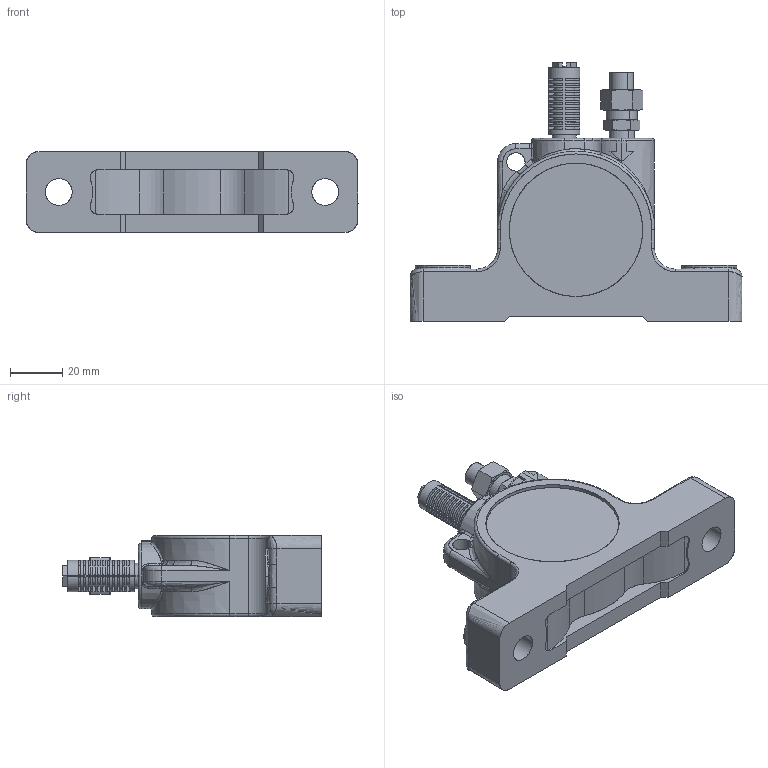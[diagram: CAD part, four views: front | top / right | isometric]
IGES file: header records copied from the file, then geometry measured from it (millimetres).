
Start section: SolidWorks IGES file using analytic representation for surfaces
Global section: file name: V:\WORK\08133\HP 寸法図\ball\UP113A\test_D40000C-000 UP113A_defeature.IGS,15; native system: HSolidWorks 2018; preprocessor: SolidWorks 2018; author: n-udagawa; date: 230214.092442; units: millimetre
Bounding box: 127 x 99 x 31 mm (x, y, z)
Surface area: 27809.2 mm2 (no closed solid volume)
Topology: 0 solids, 0 shells, 423 faces, 6237 edges, 7258 vertices
Faces by surface type: bspline 296, revolution 127
